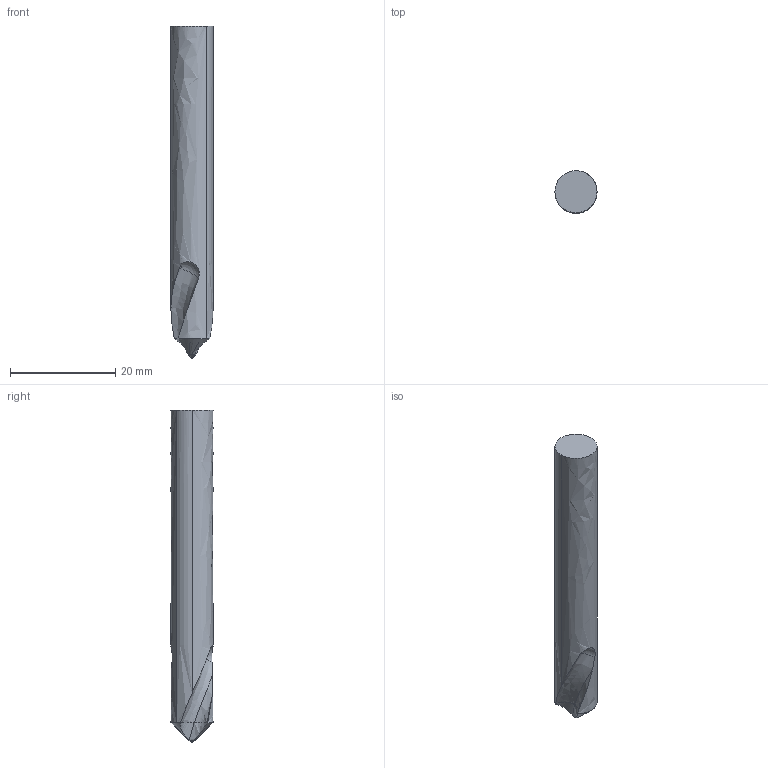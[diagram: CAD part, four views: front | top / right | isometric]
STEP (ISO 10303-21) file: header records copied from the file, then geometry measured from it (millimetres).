
FILE_DESCRIPTION(('CATIA V5 STEP','CAx-IF Rec.Pracs.--- Model Styling and Organization---1.2---2011-12-15'),'2;1');
FILE_NAME('N:\data\isr\design\special1\users\NATALY_B\Tal\NPA\5623299\ECD-S2 080_90C08-63.stp','2017-04-02T14:29:09+00:00',('none'),('none'),'CATIA Version 5 Release 21 SP 5 (IN-10)','CATIA V5 STEP AP214','none');
FILE_SCHEMA(('AUTOMOTIVE_DESIGN { 1 0 10303 214 1 1 1 1 }'));
Length unit declared in the file: millimetre
Products named in the file (1): ECD-S2 080/90C08-63
Bounding box: 8 x 8 x 63 mm (x, y, z)
Volume: 2794 mm3; surface area: 1685.7 mm2
Topology: 2 solids, 2 shells, 46 faces, 120 edges, 79 vertices
Faces by surface type: revolution 20, bspline 12, plane 4, extrusion 4, sphere 4, cone 2
Entity records: 3236 total; most frequent: CARTESIAN_POINT 2270, ORIENTED_EDGE 226, EDGE_CURVE 113, DIRECTION 94, B_SPLINE_CURVE_WITH_KNOTS 92, VERTEX_POINT 71, ADVANCED_FACE 46, EDGE_LOOP 46
